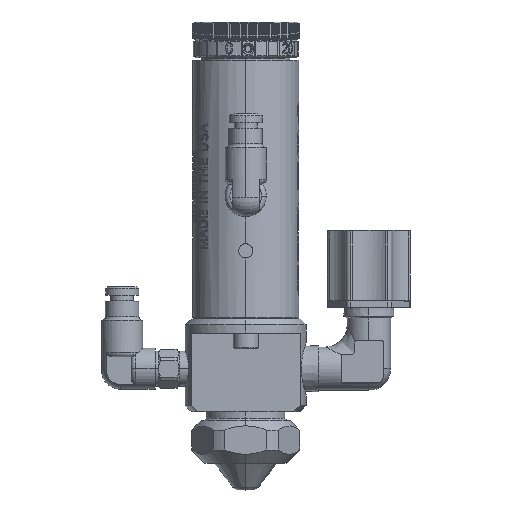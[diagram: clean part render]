
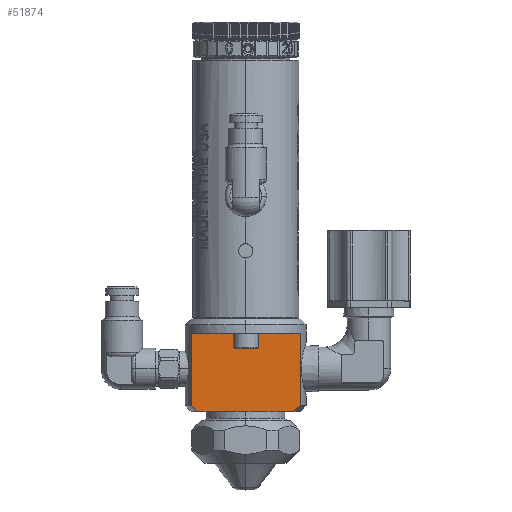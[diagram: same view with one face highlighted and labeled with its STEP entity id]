
A CAD part, top view. The second image highlights one B-rep face of the part: STEP entity #51874.
In plain terms, the highlighted planar face has unit normal (0, 0, 1).
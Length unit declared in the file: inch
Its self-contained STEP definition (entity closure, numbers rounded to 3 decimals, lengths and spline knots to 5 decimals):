
#263 = VECTOR ( 'NONE', #36663, 39.37008 ) ;
#5089 = VERTEX_POINT ( 'NONE', #11919 ) ;
#5835 = LINE ( 'NONE', #24638, #263 ) ;
#7224 = LINE ( 'NONE', #71382, #10077 ) ;
#8465 = CARTESIAN_POINT ( 'NONE',  ( -0.45887, -0.77878, 0.23 ) ) ;
#9512 = DIRECTION ( 'NONE',  ( 1., 0., 0. ) ) ;
#10077 = VECTOR ( 'NONE', #36661, 39.37008 ) ;
#10693 = EDGE_CURVE ( 'NONE', #14561, #60810, #70361, .T. ) ;
#10974 = DIRECTION ( 'NONE',  ( 1., 0., 0. ) ) ;
#11919 = CARTESIAN_POINT ( 'NONE',  ( -0.25715, -0.812, 0.23 ) ) ;
#12338 = EDGE_LOOP ( 'NONE', ( #73033, #60669, #41292, #15179, #30477, #16896, #42784, #67094 ) ) ;
#12760 = VERTEX_POINT ( 'NONE', #64460 ) ;
#14561 = VERTEX_POINT ( 'NONE', #63164 ) ;
#14927 = CARTESIAN_POINT ( 'NONE',  ( -0.44015, -0.79546, 0.23 ) ) ;
#15179 = ORIENTED_EDGE ( 'NONE', *, *, #47362, .T. ) ;
#16896 = ORIENTED_EDGE ( 'NONE', *, *, #73931, .F. ) ;
#18213 = LINE ( 'NONE', #39269, #69600 ) ;
#18878 = EDGE_CURVE ( 'NONE', #74907, #56494, #23018, .T. ) ;
#20464 = LINE ( 'NONE', #48766, #41951 ) ;
#21716 = CARTESIAN_POINT ( 'NONE',  ( 0.47749, -0.762, 0.23 ) ) ;
#22960 = CARTESIAN_POINT ( 'NONE',  ( 0.42131, -0.812, 0.23 ) ) ;
#23018 = B_SPLINE_CURVE_WITH_KNOTS ( 'NONE', 3,
 ( #22960, #64461, #40982, #69703 ),
 .UNSPECIFIED., .F., .F.,
 ( 4, 4 ),
 ( 0.05007, 0.05193 ),
 .UNSPECIFIED. ) ;
#23109 = EDGE_CURVE ( 'NONE', #5089, #12760, #18213, .T. ) ;
#23843 = LINE ( 'NONE', #52486, #55600 ) ;
#24441 = AXIS2_PLACEMENT_3D ( 'NONE', #28084, #69285, #51300 ) ;
#24638 = CARTESIAN_POINT ( 'NONE',  ( -0.47749, 0., 0.23 ) ) ;
#28084 = CARTESIAN_POINT ( 'NONE',  ( -0.53, -0.1245, 0.23 ) ) ;
#30072 = FACE_OUTER_BOUND ( 'NONE', #12338, .T. ) ;
#30477 = ORIENTED_EDGE ( 'NONE', *, *, #18878, .T. ) ;
#30783 = EDGE_CURVE ( 'NONE', #43720, #40013, #23843, .T. ) ;
#32349 = VECTOR ( 'NONE', #41132, 39.37008 ) ;
#36661 = DIRECTION ( 'NONE',  ( 1., 0., 0. ) ) ;
#36663 = DIRECTION ( 'NONE',  ( 0., 1., 0. ) ) ;
#39269 = CARTESIAN_POINT ( 'NONE',  ( -0.53, -0.812, 0.23 ) ) ;
#40013 = VERTEX_POINT ( 'NONE', #62233 ) ;
#40982 = CARTESIAN_POINT ( 'NONE',  ( 0.45886, -0.77879, 0.23 ) ) ;
#41132 = DIRECTION ( 'NONE',  ( 1., 0., 0. ) ) ;
#41292 = ORIENTED_EDGE ( 'NONE', *, *, #23109, .T. ) ;
#41951 = VECTOR ( 'NONE', #66011, 39.37008 ) ;
#42784 = ORIENTED_EDGE ( 'NONE', *, *, #30783, .F. ) ;
#43720 = VERTEX_POINT ( 'NONE', #63140 ) ;
#47362 = EDGE_CURVE ( 'NONE', #12760, #74907, #60369, .T. ) ;
#48766 = CARTESIAN_POINT ( 'NONE',  ( 0.47749, 0., 0.23 ) ) ;
#50466 = CARTESIAN_POINT ( 'NONE',  ( -0.42131, -0.812, 0.23 ) ) ;
#50728 = CARTESIAN_POINT ( 'NONE',  ( -0.47749, -0.762, 0.23 ) ) ;
#51300 = DIRECTION ( 'NONE',  ( -1., 0., 0. ) ) ;
#51874 = ADVANCED_FACE ( 'NONE', ( #30072 ), #62025, .F. ) ;
#52486 = CARTESIAN_POINT ( 'NONE',  ( -0.53, -0.1245, 0.23 ) ) ;
#55460 = CARTESIAN_POINT ( 'NONE',  ( -0.42131, -0.812, 0.23 ) ) ;
#55600 = VECTOR ( 'NONE', #10974, 39.37008 ) ;
#56494 = VERTEX_POINT ( 'NONE', #21716 ) ;
#59151 = CARTESIAN_POINT ( 'NONE',  ( 0.42131, -0.812, 0.23 ) ) ;
#59950 = CARTESIAN_POINT ( 'NONE',  ( -0.53, -0.812, 0.23 ) ) ;
#60369 = LINE ( 'NONE', #59950, #32349 ) ;
#60669 = ORIENTED_EDGE ( 'NONE', *, *, #75047, .T. ) ;
#60810 = VERTEX_POINT ( 'NONE', #55460 ) ;
#62025 = PLANE ( 'NONE',  #24441 ) ;
#62233 = CARTESIAN_POINT ( 'NONE',  ( 0.47749, -0.1245, 0.23 ) ) ;
#62689 = EDGE_CURVE ( 'NONE', #14561, #43720, #5835, .T. ) ;
#63140 = CARTESIAN_POINT ( 'NONE',  ( -0.47749, -0.1245, 0.23 ) ) ;
#63164 = CARTESIAN_POINT ( 'NONE',  ( -0.47749, -0.762, 0.23 ) ) ;
#64460 = CARTESIAN_POINT ( 'NONE',  ( 0.25715, -0.812, 0.23 ) ) ;
#64461 = CARTESIAN_POINT ( 'NONE',  ( 0.44015, -0.79547, 0.23 ) ) ;
#66011 = DIRECTION ( 'NONE',  ( 0., -1., 0. ) ) ;
#67094 = ORIENTED_EDGE ( 'NONE', *, *, #62689, .F. ) ;
#69285 = DIRECTION ( 'NONE',  ( 0., 0., -1. ) ) ;
#69600 = VECTOR ( 'NONE', #9512, 39.37008 ) ;
#69703 = CARTESIAN_POINT ( 'NONE',  ( 0.47749, -0.762, 0.23 ) ) ;
#70361 = B_SPLINE_CURVE_WITH_KNOTS ( 'NONE', 3,
 ( #50728, #8465, #14927, #50466 ),
 .UNSPECIFIED., .F., .F.,
 ( 4, 4 ),
 ( 0.02339, 0.0253 ),
 .UNSPECIFIED. ) ;
#71382 = CARTESIAN_POINT ( 'NONE',  ( -0.53, -0.812, 0.23 ) ) ;
#73033 = ORIENTED_EDGE ( 'NONE', *, *, #10693, .T. ) ;
#73931 = EDGE_CURVE ( 'NONE', #40013, #56494, #20464, .T. ) ;
#74907 = VERTEX_POINT ( 'NONE', #59151 ) ;
#75047 = EDGE_CURVE ( 'NONE', #60810, #5089, #7224, .T. ) ;
